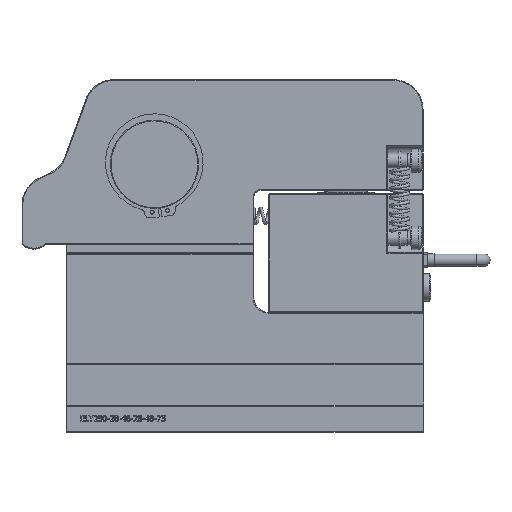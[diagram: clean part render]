
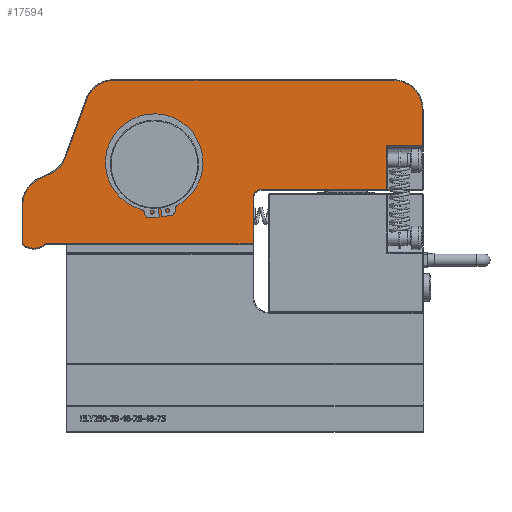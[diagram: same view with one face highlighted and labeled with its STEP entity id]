
A CAD part, top view. The second image highlights one B-rep face of the part: STEP entity #17594.
In plain terms, the highlighted planar face has unit normal (0, 0, 1).
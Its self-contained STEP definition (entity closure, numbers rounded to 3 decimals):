
#1521=LINE('',#34500,#2958);
#1524=LINE('',#34512,#2961);
#1527=LINE('',#34520,#2964);
#1530=LINE('',#34528,#2967);
#1533=LINE('',#34536,#2970);
#1536=LINE('',#34543,#2973);
#1541=LINE('',#34554,#2978);
#1542=LINE('',#34562,#2979);
#1543=LINE('',#34565,#2980);
#1550=LINE('',#34576,#2987);
#2958=VECTOR('',#21883,10.);
#2961=VECTOR('',#21892,10.);
#2964=VECTOR('',#21901,10.);
#2967=VECTOR('',#21910,10.);
#2970=VECTOR('',#21919,10.);
#2973=VECTOR('',#21924,10.);
#2978=VECTOR('',#21935,10.);
#2979=VECTOR('',#21942,10.);
#2980=VECTOR('',#21945,10.);
#2987=VECTOR('',#21958,10.);
#3601=PLANE('',#18650);
#3950=FACE_BOUND('',#5821,.T.);
#4812=FACE_OUTER_BOUND('',#5820,.T.);
#5820=EDGE_LOOP('',(#15277,#15278,#15279,#15280,#15281,#15282,#15283,#15284,
#15285,#15286,#15287,#15288,#15289,#15290,#15291,#15292));
#5821=EDGE_LOOP('',(#15293));
#6241=CIRCLE('',#18592,19.5);
#6242=CIRCLE('',#18595,20.5);
#6243=CIRCLE('',#18598,19.5);
#6244=CIRCLE('',#18601,19.5);
#6245=CIRCLE('',#18605,5.5);
#6246=CIRCLE('',#18608,11.5);
#6254=CIRCLE('',#18651,30.5);
#8278=VERTEX_POINT('',#34498);
#8279=VERTEX_POINT('',#34499);
#8280=VERTEX_POINT('',#34507);
#8281=VERTEX_POINT('',#34511);
#8282=VERTEX_POINT('',#34515);
#8283=VERTEX_POINT('',#34519);
#8284=VERTEX_POINT('',#34523);
#8285=VERTEX_POINT('',#34527);
#8286=VERTEX_POINT('',#34531);
#8287=VERTEX_POINT('',#34535);
#8289=VERTEX_POINT('',#34540);
#8290=VERTEX_POINT('',#34542);
#8291=VERTEX_POINT('',#34547);
#8292=VERTEX_POINT('',#34551);
#8293=VERTEX_POINT('',#34553);
#8294=VERTEX_POINT('',#34564);
#8312=VERTEX_POINT('',#34670);
#10597=EDGE_CURVE('',#8278,#8279,#1521,.T.);
#10600=EDGE_CURVE('',#8279,#8280,#6241,.T.);
#10602=EDGE_CURVE('',#8280,#8281,#1524,.T.);
#10604=EDGE_CURVE('',#8281,#8282,#6242,.T.);
#10606=EDGE_CURVE('',#8282,#8283,#1527,.T.);
#10608=EDGE_CURVE('',#8283,#8284,#6243,.T.);
#10610=EDGE_CURVE('',#8284,#8285,#1530,.T.);
#10612=EDGE_CURVE('',#8285,#8286,#6244,.T.);
#10614=EDGE_CURVE('',#8286,#8287,#1533,.T.);
#10617=EDGE_CURVE('',#8289,#8290,#1536,.T.);
#10620=EDGE_CURVE('',#8290,#8291,#6245,.T.);
#10623=EDGE_CURVE('',#8292,#8293,#1541,.T.);
#10625=EDGE_CURVE('',#8293,#8278,#6246,.T.);
#10626=EDGE_CURVE('',#8291,#8292,#1542,.T.);
#10627=EDGE_CURVE('',#8294,#8289,#1543,.T.);
#10634=EDGE_CURVE('',#8287,#8294,#1550,.T.);
#10682=EDGE_CURVE('',#8312,#8312,#6254,.T.);
#15277=ORIENTED_EDGE('',*,*,#10625,.F.);
#15278=ORIENTED_EDGE('',*,*,#10623,.F.);
#15279=ORIENTED_EDGE('',*,*,#10626,.F.);
#15280=ORIENTED_EDGE('',*,*,#10620,.F.);
#15281=ORIENTED_EDGE('',*,*,#10617,.F.);
#15282=ORIENTED_EDGE('',*,*,#10627,.F.);
#15283=ORIENTED_EDGE('',*,*,#10634,.F.);
#15284=ORIENTED_EDGE('',*,*,#10614,.F.);
#15285=ORIENTED_EDGE('',*,*,#10612,.F.);
#15286=ORIENTED_EDGE('',*,*,#10610,.F.);
#15287=ORIENTED_EDGE('',*,*,#10608,.F.);
#15288=ORIENTED_EDGE('',*,*,#10606,.F.);
#15289=ORIENTED_EDGE('',*,*,#10604,.F.);
#15290=ORIENTED_EDGE('',*,*,#10602,.F.);
#15291=ORIENTED_EDGE('',*,*,#10600,.F.);
#15292=ORIENTED_EDGE('',*,*,#10597,.F.);
#15293=ORIENTED_EDGE('',*,*,#10682,.F.);
#17594=ADVANCED_FACE('',(#4812,#3950),#3601,.T.);
#18592=AXIS2_PLACEMENT_3D('',#34508,#21887,#21888);
#18595=AXIS2_PLACEMENT_3D('',#34516,#21896,#21897);
#18598=AXIS2_PLACEMENT_3D('',#34524,#21905,#21906);
#18601=AXIS2_PLACEMENT_3D('',#34532,#21914,#21915);
#18605=AXIS2_PLACEMENT_3D('',#34548,#21929,#21930);
#18608=AXIS2_PLACEMENT_3D('',#34560,#21938,#21939);
#18650=AXIS2_PLACEMENT_3D('',#34669,#22071,#22072);
#18651=AXIS2_PLACEMENT_3D('',#34671,#22073,#22074);
#21883=DIRECTION('',(0.,1.,0.));
#21887=DIRECTION('center_axis',(0.,0.,
-1.));
#21888=DIRECTION('ref_axis',(-0.843,0.537,0.));
#21892=DIRECTION('',(0.906,0.423,0.));
#21896=DIRECTION('center_axis',(0.,0.,
1.));
#21897=DIRECTION('ref_axis',(0.423,-0.906,0.));
#21901=DIRECTION('',(0.342,0.94,0.));
#21905=DIRECTION('center_axis',(0.,0.,
-1.));
#21906=DIRECTION('ref_axis',(-0.574,0.819,0.));
#21910=DIRECTION('',(1.,0.,0.));
#21914=DIRECTION('center_axis',(0.,0.,
-1.));
#21915=DIRECTION('ref_axis',(0.707,0.707,0.));
#21919=DIRECTION('',(0.,-1.,0.));
#21924=DIRECTION('',(-1.,0.,0.));
#21929=DIRECTION('center_axis',(0.,0.,
1.));
#21930=DIRECTION('ref_axis',(0.,1.,0.));
#21935=DIRECTION('',(-1.,0.,0.));
#21938=DIRECTION('center_axis',(0.,0.,
-1.));
#21939=DIRECTION('ref_axis',(-0.667,-0.745,0.));
#21942=DIRECTION('',(0.,-1.,0.));
#21945=DIRECTION('',(0.,-1.,0.));
#21958=DIRECTION('',(-1.,0.,0.));
#22071=DIRECTION('center_axis',(0.,0.,
1.));
#22072=DIRECTION('ref_axis',(0.,-1.,0.));
#22073=DIRECTION('center_axis',(0.,0.,
1.));
#22074=DIRECTION('ref_axis',(-1.,0.,0.));
#34498=CARTESIAN_POINT('',(-150.75,8.032,65.));
#34499=CARTESIAN_POINT('',(-150.75,34.651,65.));
#34500=CARTESIAN_POINT('',(-150.75,62.25,65.));
#34507=CARTESIAN_POINT('',(-139.491,52.324,65.));
#34508=CARTESIAN_POINT('Origin',(-131.25,34.651,65.));
#34511=CARTESIAN_POINT('',(-132.047,55.796,65.));
#34512=CARTESIAN_POINT('',(-26.783,104.881,65.));
#34515=CARTESIAN_POINT('',(-121.447,67.364,65.));
#34516=CARTESIAN_POINT('Origin',(-140.71,74.375,65.));
#34519=CARTESIAN_POINT('',(-107.232,106.419,65.));
#34520=CARTESIAN_POINT('',(-98.571,130.214,65.));
#34523=CARTESIAN_POINT('',(-88.908,119.25,65.));
#34524=CARTESIAN_POINT('Origin',(-88.908,99.75,65.));
#34527=CARTESIAN_POINT('',(101.25,119.25,65.));
#34528=CARTESIAN_POINT('',(53.125,119.25,65.));
#34531=CARTESIAN_POINT('',(120.75,99.75,65.));
#34532=CARTESIAN_POINT('Origin',(101.25,99.75,65.));
#34535=CARTESIAN_POINT('',(120.75,75.25,65.));
#34536=CARTESIAN_POINT('',(120.75,62.25,65.));
#34540=CARTESIAN_POINT('',(96.75,45.25,65.));
#34542=CARTESIAN_POINT('',(11.25,45.25,65.));
#34543=CARTESIAN_POINT('',(121.25,45.25,65.));
#34547=CARTESIAN_POINT('',(5.75,39.75,65.));
#34548=CARTESIAN_POINT('Origin',(11.25,39.75,65.));
#34551=CARTESIAN_POINT('',(5.75,8.25,65.));
#34553=CARTESIAN_POINT('',(-135.504,8.25,65.));
#34554=CARTESIAN_POINT('',(-7.031,8.25,65.));
#34560=CARTESIAN_POINT('Origin',(-143.25,16.75,65.));
#34562=CARTESIAN_POINT('',(5.75,51.,65.));
#34564=CARTESIAN_POINT('',(96.75,75.25,65.));
#34565=CARTESIAN_POINT('',(96.75,60.617,65.));
#34576=CARTESIAN_POINT('',(121.25,75.25,65.));
#34669=CARTESIAN_POINT('Origin',(121.25,62.25,65.));
#34670=CARTESIAN_POINT('',(-30.75,62.25,65.));
#34671=CARTESIAN_POINT('Origin',(-61.25,62.25,65.));
